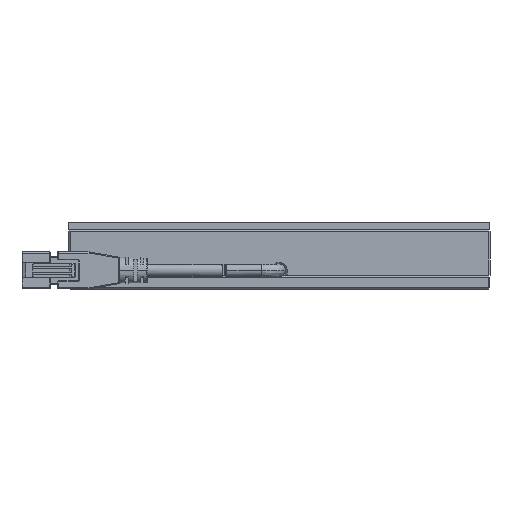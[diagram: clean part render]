
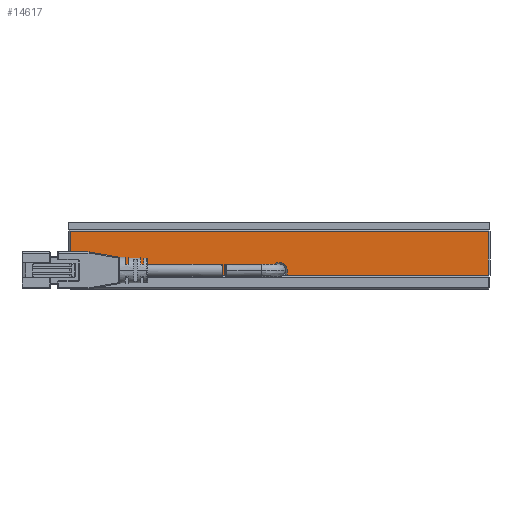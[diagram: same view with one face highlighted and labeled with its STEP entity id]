
A CAD part, left-side view. The second image highlights one B-rep face of the part: STEP entity #14617.
In plain terms, the highlighted planar face has unit normal (-1, 0, 0).
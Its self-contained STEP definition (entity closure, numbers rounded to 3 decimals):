
#16 = LINE ( 'NONE', #13775, #15312 ) ;
#241 = CARTESIAN_POINT ( 'NONE',  ( -50., 60., 4. ) ) ;
#341 = DIRECTION ( 'NONE',  ( 1., 0., 0. ) ) ;
#710 = EDGE_CURVE ( 'NONE', #1173, #3712, #16, .T. ) ;
#1173 = VERTEX_POINT ( 'NONE', #2589 ) ;
#1794 = CARTESIAN_POINT ( 'NONE',  ( -50., 59.5, 16.5 ) ) ;
#2238 = ORIENTED_EDGE ( 'NONE', *, *, #5572, .T. ) ;
#2589 = CARTESIAN_POINT ( 'NONE',  ( -50., -59.5, 4. ) ) ;
#2754 = VERTEX_POINT ( 'NONE', #6173 ) ;
#2966 = VECTOR ( 'NONE', #5641, 1000. ) ;
#3071 = VECTOR ( 'NONE', #27722, 1000. ) ;
#3546 = FACE_OUTER_BOUND ( 'NONE', #14367, .T. ) ;
#3712 = VERTEX_POINT ( 'NONE', #9788 ) ;
#5572 = EDGE_CURVE ( 'NONE', #9774, #24132, #6764, .T. ) ;
#5641 = DIRECTION ( 'NONE',  ( 0., 1., 0. ) ) ;
#6173 = CARTESIAN_POINT ( 'NONE',  ( -50., 59.5, 4. ) ) ;
#6475 = DIRECTION ( 'NONE',  ( 0., 0., -1. ) ) ;
#6764 = CIRCLE ( 'NONE', #8016, 2.25 ) ;
#7121 = LINE ( 'NONE', #10605, #3071 ) ;
#7138 = CARTESIAN_POINT ( 'NONE',  ( -50., -2.25, 5.4 ) ) ;
#7342 = DIRECTION ( 'NONE',  ( 0., 0., 1. ) ) ;
#7877 = ORIENTED_EDGE ( 'NONE', *, *, #8638, .T. ) ;
#8016 = AXIS2_PLACEMENT_3D ( 'NONE', #13751, #20125, #11366 ) ;
#8317 = EDGE_CURVE ( 'NONE', #8419, #2754, #11416, .T. ) ;
#8419 = VERTEX_POINT ( 'NONE', #27735 ) ;
#8463 = ORIENTED_EDGE ( 'NONE', *, *, #710, .T. ) ;
#8638 = EDGE_CURVE ( 'NONE', #24469, #2754, #18854, .T. ) ;
#8695 = ORIENTED_EDGE ( 'NONE', *, *, #15082, .F. ) ;
#9004 = EDGE_CURVE ( 'NONE', #8419, #9774, #15699, .T. ) ;
#9236 = DIRECTION ( 'NONE',  ( 0., 0., 1. ) ) ;
#9774 = VERTEX_POINT ( 'NONE', #27347 ) ;
#9788 = CARTESIAN_POINT ( 'NONE',  ( -50., -59.5, 16.5 ) ) ;
#9977 = CARTESIAN_POINT ( 'NONE',  ( -50., 60., 4. ) ) ;
#10540 = PLANE ( 'NONE',  #20831 ) ;
#10605 = CARTESIAN_POINT ( 'NONE',  ( -50., -2.25, 4. ) ) ;
#11366 = DIRECTION ( 'NONE',  ( 0., 0., 1. ) ) ;
#11416 = LINE ( 'NONE', #9977, #2966 ) ;
#12523 = CARTESIAN_POINT ( 'NONE',  ( -50., 59.5, 4. ) ) ;
#12535 = EDGE_CURVE ( 'NONE', #3712, #24469, #19974, .T. ) ;
#12899 = VECTOR ( 'NONE', #28043, 1000. ) ;
#13094 = VECTOR ( 'NONE', #6475, 1000. ) ;
#13670 = ORIENTED_EDGE ( 'NONE', *, *, #19635, .T. ) ;
#13751 = CARTESIAN_POINT ( 'NONE',  ( -50., 0., 5.4 ) ) ;
#13775 = CARTESIAN_POINT ( 'NONE',  ( -50., -59.5, 4. ) ) ;
#14367 = EDGE_LOOP ( 'NONE', ( #8695, #8463, #26642, #7877, #22250, #21899, #2238, #13670 ) ) ;
#14617 = ADVANCED_FACE ( 'NONE', ( #3546 ), #10540, .F. ) ;
#15082 = EDGE_CURVE ( 'NONE', #1173, #17646, #16303, .T. ) ;
#15143 = CARTESIAN_POINT ( 'NONE',  ( -50., 60., 4. ) ) ;
#15312 = VECTOR ( 'NONE', #7342, 1000. ) ;
#15699 = LINE ( 'NONE', #18109, #23451 ) ;
#16303 = LINE ( 'NONE', #15143, #23725 ) ;
#17646 = VERTEX_POINT ( 'NONE', #25269 ) ;
#18109 = CARTESIAN_POINT ( 'NONE',  ( -50., 2.25, 4. ) ) ;
#18854 = LINE ( 'NONE', #12523, #13094 ) ;
#19507 = CARTESIAN_POINT ( 'NONE',  ( -50., 60., 16.5 ) ) ;
#19635 = EDGE_CURVE ( 'NONE', #24132, #17646, #7121, .T. ) ;
#19974 = LINE ( 'NONE', #19507, #12899 ) ;
#20125 = DIRECTION ( 'NONE',  ( 1., 0., 0. ) ) ;
#20831 = AXIS2_PLACEMENT_3D ( 'NONE', #241, #341, #26196 ) ;
#21899 = ORIENTED_EDGE ( 'NONE', *, *, #9004, .T. ) ;
#22250 = ORIENTED_EDGE ( 'NONE', *, *, #8317, .F. ) ;
#23451 = VECTOR ( 'NONE', #9236, 1000. ) ;
#23725 = VECTOR ( 'NONE', #25688, 1000. ) ;
#24132 = VERTEX_POINT ( 'NONE', #7138 ) ;
#24469 = VERTEX_POINT ( 'NONE', #1794 ) ;
#25269 = CARTESIAN_POINT ( 'NONE',  ( -50., -2.25, 4. ) ) ;
#25688 = DIRECTION ( 'NONE',  ( 0., 1., 0. ) ) ;
#26196 = DIRECTION ( 'NONE',  ( 0., 0., 1. ) ) ;
#26642 = ORIENTED_EDGE ( 'NONE', *, *, #12535, .T. ) ;
#27347 = CARTESIAN_POINT ( 'NONE',  ( -50., 2.25, 5.4 ) ) ;
#27722 = DIRECTION ( 'NONE',  ( 0., 0., -1. ) ) ;
#27735 = CARTESIAN_POINT ( 'NONE',  ( -50., 2.25, 4. ) ) ;
#28043 = DIRECTION ( 'NONE',  ( 0., 1., 0. ) ) ;
